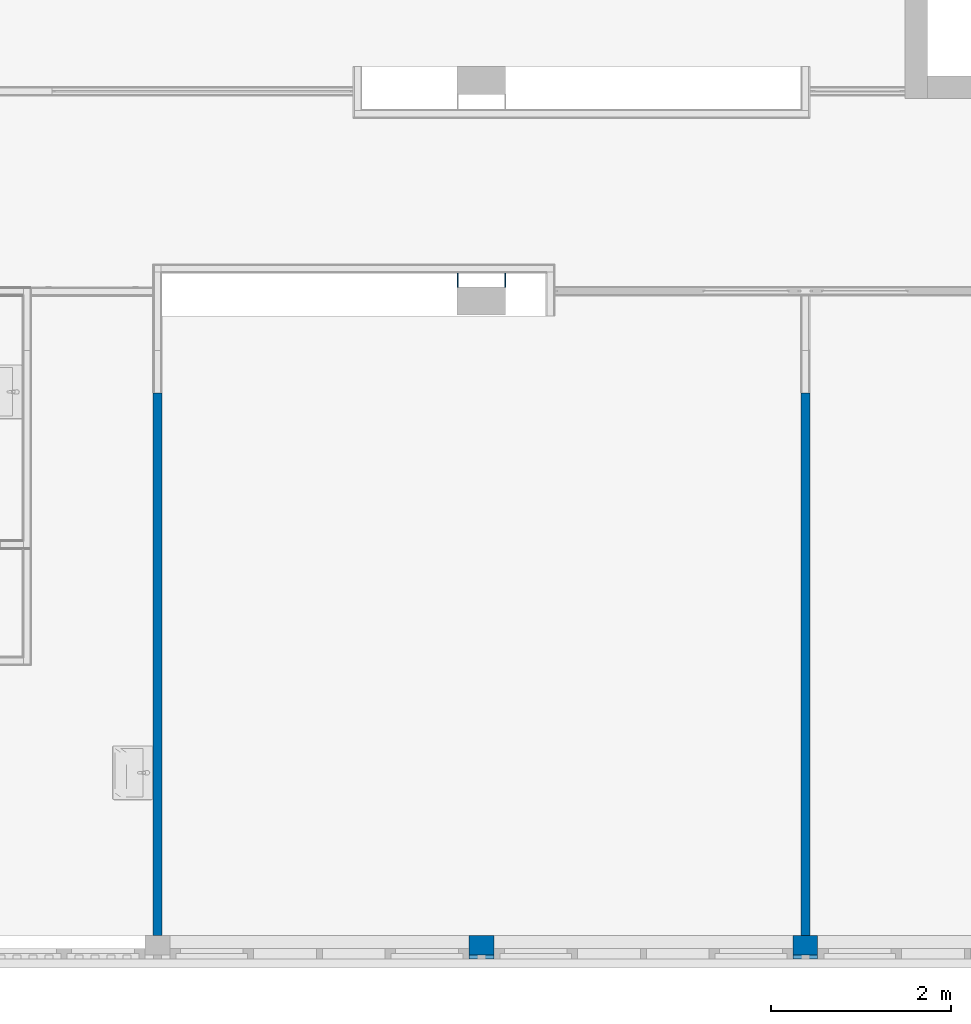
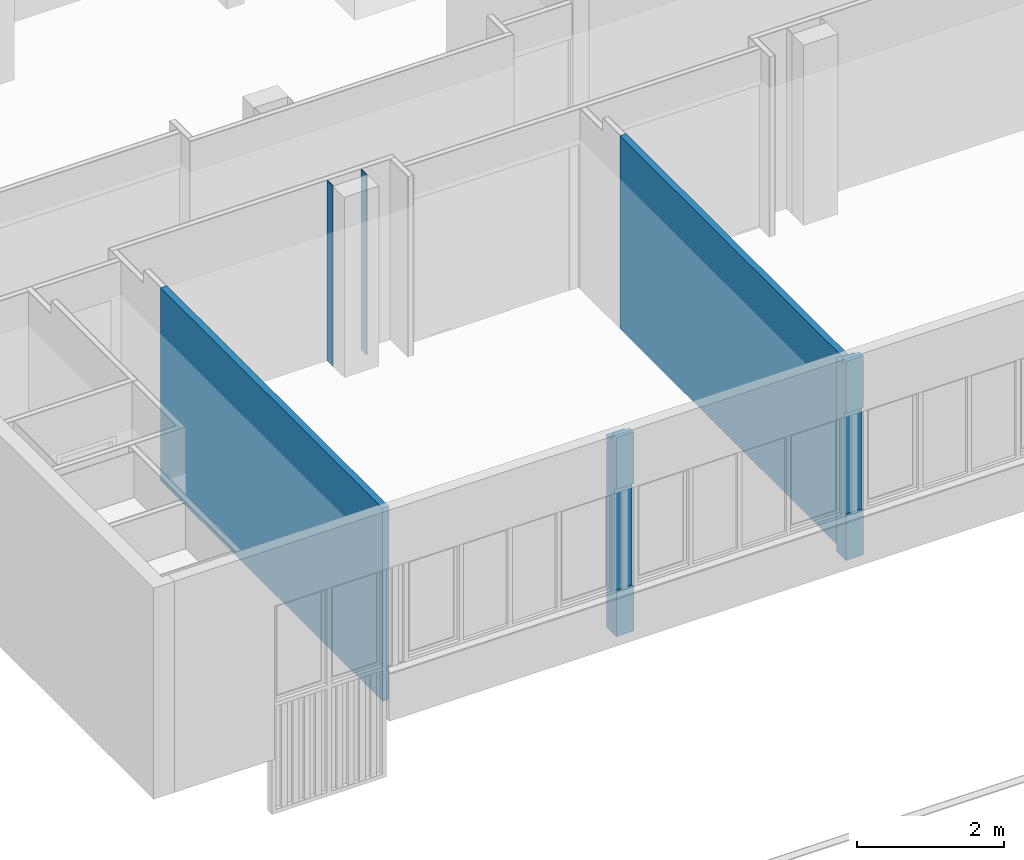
# One storey, part 37 of 99: 6 walls.
"""IFC2X3 building model written with IfcOpenShell, lengths in millimetres."""

from ifc_helpers import new_model, entity, si_unit, converted_unit, derived_unit, money_unit, direction, frame, origin_with_axes, place, context, subcontext, project, spatial, faceted_brep, material, type_object, element, save


model = new_model("IFC2X3")

# Units and contexts
model_context = context("Model", 3, precision=0.01, world=origin_with_axes(), true_north=direction((0.0, 1.0)))
body_context = subcontext(model_context, "Body", "Model", "MODEL_VIEW")
ifc_project = project(units=[si_unit("LENGTHUNIT", "METRE", prefix="MILLI"), si_unit("AREAUNIT", "SQUARE_METRE"), si_unit("VOLUMEUNIT", "CUBIC_METRE"), converted_unit("PLANEANGLEUNIT", "DEGREE", entity("IfcPlaneAngleMeasure", 0.0174532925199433), si_unit("PLANEANGLEUNIT", "RADIAN"), dimensions=[0, 0, 0, 0, 0, 0, 0]), money_unit("EUR"), converted_unit("TIMEUNIT", "Year", entity("IfcTimeMeasure", 31557600.0), si_unit("TIMEUNIT", "SECOND"), dimensions=[0, 0, 1, 0, 0, 0, 0]), si_unit("MASSUNIT", "GRAM", prefix="KILO"), si_unit("THERMODYNAMICTEMPERATUREUNIT", "DEGREE_CELSIUS"), si_unit("LUMINOUSINTENSITYUNIT", "LUMEN"), si_unit("ENERGYUNIT", "JOULE", prefix="MEGA"), derived_unit("THERMALCONDUCTANCEUNIT", [(si_unit("POWERUNIT", "WATT"), 1), (si_unit("LENGTHUNIT", "METRE"), -1), (si_unit("THERMODYNAMICTEMPERATUREUNIT", "KELVIN"), -1)]), derived_unit("SPECIFICHEATCAPACITYUNIT", [(si_unit("ENERGYUNIT", "JOULE"), 1), (si_unit("MASSUNIT", "GRAM", prefix="KILO"), -1), (si_unit("THERMODYNAMICTEMPERATUREUNIT", "KELVIN"), -1)]), derived_unit("MASSDENSITYUNIT", [(si_unit("MASSUNIT", "GRAM", prefix="KILO"), 1), (si_unit("VOLUMEUNIT", "CUBIC_METRE"), -1)])], contexts=[model_context])

# Site, building, storey
site_placement = place(None, origin_with_axes())
site = spatial("IfcSite", under=ifc_project, at=site_placement, Name="Site", CompositionType="ELEMENT")
building_placement = place(site_placement, origin_with_axes())
building = spatial("IfcBuilding", under=site, at=building_placement, Name="Naam gebouw", CompositionType="ELEMENT")
storey_placement = place(building_placement, frame((0.0, 0.0, 7650.0), z_axis=(0.0, 0.0, 1.0), x_axis=(1.0, 0.0, 0.0)))
storey = spatial("IfcBuildingStorey", under=building, at=storey_placement, Name="2e verdieping N", CompositionType="ELEMENT", Elevation=7650.0)

# Walls
ifc_material_1 = material(Name="ALG - CONSTRUCTIEF")
wall_type_1 = type_object("IfcWallType", Name="ALG - CONSTRUCTIEF 100", PredefinedType="NOTDEFINED")
wall_1_placement = place(storey_placement, frame((3599.999999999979, 3445.658971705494, 0.0), z_axis=(0.0, 0.0, 1.0), x_axis=(0.0, 1.0, 0.0)))
element("IfcWall", 1, at=wall_1_placement, inside=storey, type_object=wall_type_1, material=ifc_material_1, Name="_Wand-x", context=body_context, shape_type="Brep", body=[
    faceted_brep([(0.009735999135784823, -49.99999999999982, 0.0), (0.009735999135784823, 49.99999999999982, 0.0), (6030.253453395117, 50.00000000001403, 0.0), (6030.253453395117, -49.99999999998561, 0.0), (0.009735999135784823, -49.99999999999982, 3199.999999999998), (0.009735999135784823, 50.00000000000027, 3199.999999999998), (6030.253453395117, 50.00000000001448, 3199.999999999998), (6030.253453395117, -49.99999999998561, 3199.999999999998)], [[[0, 1, 2, 3]], [[4, 5, 1, 0]], [[1, 5, 6, 2]], [[7, 3, 2, 6]], [[4, 0, 3, 7]], [[5, 4, 7, 6]]]),
])
wall_2_placement = place(storey_placement, frame((10799.99999999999, 3445.658971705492, -99.99999999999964), z_axis=(0.0, 0.0, 1.0), x_axis=(0.0, 1.0, 0.0)))
element("IfcWall", 2, at=wall_2_placement, inside=storey, type_object=wall_type_1, material=ifc_material_1, Name="_Wand-x", context=body_context, shape_type="Brep", body=[
    faceted_brep([(6030.253453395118, -49.99999999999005, 99.99999999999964), (6030.253453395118, 50.00000000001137, 99.99999999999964), (6030.253453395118, 50.00000000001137, 3299.999999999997), (6030.253453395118, -49.9999999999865, 3299.999999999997), (0.0, -50.00000000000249, 99.99999999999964), (0.0, 49.99999999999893, 99.99999999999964), (0.009163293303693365, 49.99999999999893, 3299.999999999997), (0.009163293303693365, -49.99999999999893, 3299.999999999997)], [[[0, 1, 2, 3]], [[4, 5, 1, 0]], [[1, 5, 6, 2]], [[2, 6, 7, 3]], [[4, 0, 3, 7]], [[5, 4, 7, 6]]]),
])
ifc_material_2 = material(Name="Gipsplaat")
wall_type_2 = type_object("IfcWallType", Name="Metalstud 100 enkel 100", PredefinedType="NOTDEFINED")
wall_3_placement = place(storey_placement, frame((6929.999999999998, 10650.91242510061, 0.0), z_axis=(0.0, 0.0, 1.0), x_axis=(0.0, 1.0, 0.0)))
element("IfcWall", 3, at=wall_3_placement, inside=storey, type_object=wall_type_2, material=ifc_material_2, Name="_Wand-x", context=body_context, shape_type="Brep", body=[
    faceted_brep([(155.0000000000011, -12.50000000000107, 0.0), (155.0000000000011, 0.0, 0.0), (155.0000000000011, 0.0, 2989.999999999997), (155.0000000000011, -12.49999999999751, 2989.999999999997), (0.0, -12.50000000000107, 0.0), (0.0, 0.0, 0.0), (0.0, 0.0, 2989.999999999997), (0.0, -12.50000000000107, 2989.999999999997)], [[[0, 1, 2, 3]], [[0, 4, 5, 1]], [[1, 5, 6, 2]], [[2, 6, 7, 3]], [[4, 0, 3, 7]], [[5, 4, 7, 6]]]),
])
wall_4_placement = place(storey_placement, frame((7470.000000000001, 10650.91242510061, 0.0), z_axis=(0.0, 0.0, 1.0), x_axis=(0.0, 1.0, 0.0)))
element("IfcWall", 4, at=wall_4_placement, inside=storey, type_object=wall_type_2, material=ifc_material_2, Name="_Wand-x", context=body_context, shape_type="Brep", body=[
    faceted_brep([(155.0000000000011, 0.0, 0.0), (155.0000000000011, 12.50000000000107, 0.0), (155.0000000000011, 12.50000000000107, 2989.999999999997), (155.0000000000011, 0.0, 2989.999999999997), (0.0, 0.0, 0.0), (0.0, 12.50000000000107, 0.0), (0.0, 12.50000000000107, 2989.999999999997), (0.0, 0.0, 2989.999999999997)], [[[0, 1, 2, 3]], [[0, 4, 5, 1]], [[1, 5, 6, 2]], [[2, 6, 7, 3]], [[4, 0, 3, 7]], [[5, 4, 7, 6]]]),
])
ifc_material_3 = material(Name="ALG - GEVEL")
wall_type_3 = type_object("IfcWallType", Name="ALG - GEVEL 260", PredefinedType="NOTDEFINED")
wall_5_placement = place(storey_placement, frame((10662.50930923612, 3185.658971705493, 0.0), z_axis=(0.0, 0.0, 1.0), x_axis=(1.0, 0.0, 0.0)))
element("IfcWall", 5, at=wall_5_placement, inside=storey, type_object=wall_type_3, material=ifc_material_3, Name="_Wand-x", context=body_context, shape_type="Brep", body=[
    faceted_brep([(274.9906907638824, 44.00973599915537, 2440.000000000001), (274.9906907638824, 0.009735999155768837, 2440.000000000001), (-0.00930923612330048, 0.009735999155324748, 2440.000000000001), (-0.00930923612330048, 44.00973599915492, 2440.000000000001), (274.9906907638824, 44.00973599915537, 737.6344147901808), (274.9906907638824, 7.000000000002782, 737.6344147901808), (275.0000000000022, 7.000000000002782, 736.8361337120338), (275.0000000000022, 0.0, 735.601844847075), (275.0000000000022, 0.0, 0.0), (275.0000000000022, 260.0000000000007, 0.0), (275.0000000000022, 260.0000000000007, 3199.999999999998), (275.0000000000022, 110.2534533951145, 3199.999999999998), (275.0000000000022, 110.2534533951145, 3299.999999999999), (275.0000000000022, 0.0, 3299.999999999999), (0.0, 0.0, 3299.999999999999), (0.0, 7.000000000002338, 736.8361337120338), (-0.00930923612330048, 7.000000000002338, 737.6344147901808), (-0.00930923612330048, 44.00973599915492, 737.6344147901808), (0.0, 110.2534533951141, 3299.999999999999), (0.0, 110.2534533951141, 3199.999999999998), (0.0, 260.0000000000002, 3199.999999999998), (0.0, 260.0000000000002, 0.0), (0.0, 0.0, 0.0), (0.0, 0.0, 735.601844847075)], [[[0, 1, 2, 3]], [[1, 0, 4, 5, 6, 7, 8, 9, 10, 11, 12, 13]], [[2, 1, 13, 14]], [[15, 16, 17, 3, 2, 14, 18, 19, 20, 21, 22, 23]], [[3, 17, 4, 0]], [[17, 16, 5, 4]], [[5, 16, 15, 6]], [[15, 23, 7, 6]], [[22, 8, 7, 23]], [[9, 8, 22, 21]], [[10, 9, 21, 20]], [[10, 20, 19, 11]], [[12, 11, 19, 18]], [[18, 14, 13, 12]]]),
])
wall_type_4 = type_object("IfcWallType", Name="ALG - CONSTRUCTIEF 260", PredefinedType="NOTDEFINED")
wall_6_placement = place(storey_placement, frame((7062.498759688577, 3185.658971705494, 0.0), z_axis=(0.0, 0.0, 1.0), x_axis=(1.0, 0.0, 0.0)))
element("IfcWall", 6, at=wall_6_placement, inside=storey, type_object=wall_type_4, material=ifc_material_1, Name="_Wand-x", context=body_context, shape_type="Brep", body=[
    faceted_brep([(275.0012403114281, 44.00973599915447, 2440.000000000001), (275.0012403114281, 0.009735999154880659, 2440.000000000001), (0.001240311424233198, 0.009735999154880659, 2440.000000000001), (0.001240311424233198, 44.00973599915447, 2440.000000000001), (275.0012403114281, 44.00973599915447, 737.6344147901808), (275.0012403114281, 7.000000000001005, 737.6344147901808), (275.0000000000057, 7.000000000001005, 736.8361337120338), (275.0000000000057, 0.0, 735.601844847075), (275.0000000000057, 0.0, 0.0), (275.0000000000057, 260.0000000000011, 0.0), (275.0000000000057, 260.0000000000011, 3199.999999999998), (275.0000000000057, 110.2534533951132, 3199.999999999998), (275.0000000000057, 110.2534533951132, 3299.999999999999), (275.0000000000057, 0.0, 3299.999999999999), (0.0, 0.0, 3299.999999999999), (0.0, 7.000000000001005, 736.8361337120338), (0.001240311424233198, 7.000000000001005, 737.6344147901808), (0.001240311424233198, 44.00973599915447, 737.6344147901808), (0.0, 110.2534533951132, 3299.999999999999), (0.0, 110.2534533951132, 3199.999999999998), (0.0, 260.0000000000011, 3199.999999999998), (0.0, 260.0000000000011, 0.0), (0.0, 0.0, 0.0), (0.0, 0.0, 735.601844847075)], [[[0, 1, 2, 3]], [[1, 0, 4, 5, 6, 7, 8, 9, 10, 11, 12, 13]], [[2, 1, 13, 14]], [[15, 16, 17, 3, 2, 14, 18, 19, 20, 21, 22, 23]], [[3, 17, 4, 0]], [[17, 16, 5, 4]], [[5, 16, 15, 6]], [[15, 23, 7, 6]], [[22, 8, 7, 23]], [[9, 8, 22, 21]], [[10, 9, 21, 20]], [[10, 20, 19, 11]], [[12, 11, 19, 18]], [[18, 14, 13, 12]]]),
])

save(model, "model.ifc")
